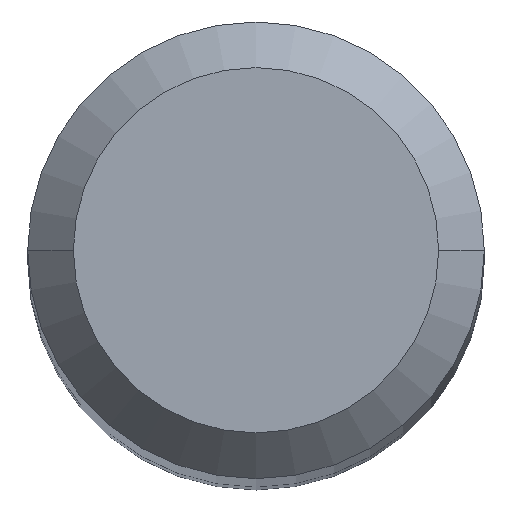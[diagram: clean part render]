
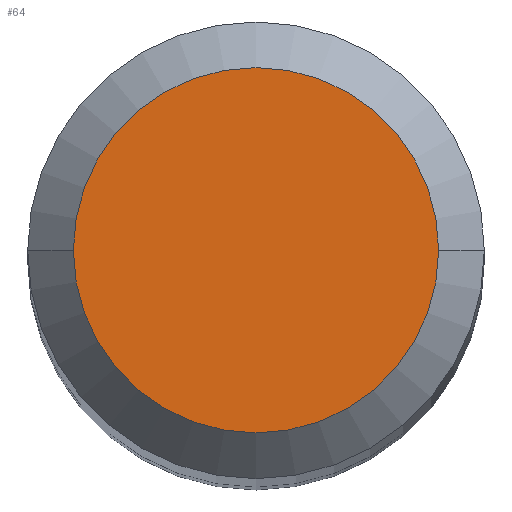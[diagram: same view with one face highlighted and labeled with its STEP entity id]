
A CAD part, top view. The second image highlights one B-rep face of the part: STEP entity #64.
In plain terms, the highlighted planar face has unit normal (0, 0, 1).
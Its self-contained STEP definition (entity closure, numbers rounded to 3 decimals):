
#13 = CIRCLE ( 'NONE', #275, 1.44 ) ;
#47 = CARTESIAN_POINT ( 'NONE',  ( 0., 0., 0. ) ) ;
#50 = AXIS2_PLACEMENT_3D ( 'NONE', #76, #196, #51 ) ;
#51 = DIRECTION ( 'NONE',  ( 1., 0., 0. ) ) ;
#64 = ADVANCED_FACE ( 'NONE', ( #104 ), #78, .T. ) ;
#76 = CARTESIAN_POINT ( 'NONE',  ( 0., 1.44, 0. ) ) ;
#78 = PLANE ( 'NONE',  #50 ) ;
#80 = CARTESIAN_POINT ( 'NONE',  ( 0., 0., 0. ) ) ;
#95 = EDGE_CURVE ( 'NONE', #283, #373, #226, .T. ) ;
#103 = EDGE_LOOP ( 'NONE', ( #287, #341 ) ) ;
#104 = FACE_OUTER_BOUND ( 'NONE', #103, .T. ) ;
#110 = DIRECTION ( 'NONE',  ( -1., 0., 0. ) ) ;
#113 = AXIS2_PLACEMENT_3D ( 'NONE', #47, #166, #110 ) ;
#114 = DIRECTION ( 'NONE',  ( -1., 0., 0. ) ) ;
#166 = DIRECTION ( 'NONE',  ( 0., 0., -1. ) ) ;
#196 = DIRECTION ( 'NONE',  ( 0., 0., 1. ) ) ;
#226 = CIRCLE ( 'NONE', #113, 1.44 ) ;
#275 = AXIS2_PLACEMENT_3D ( 'NONE', #80, #327, #114 ) ;
#283 = VERTEX_POINT ( 'NONE', #299 ) ;
#287 = ORIENTED_EDGE ( 'NONE', *, *, #311, .F. ) ;
#299 = CARTESIAN_POINT ( 'NONE',  ( 1.44, 0., 0. ) ) ;
#311 = EDGE_CURVE ( 'NONE', #373, #283, #13, .T. ) ;
#327 = DIRECTION ( 'NONE',  ( 0., 0., -1. ) ) ;
#341 = ORIENTED_EDGE ( 'NONE', *, *, #95, .F. ) ;
#373 = VERTEX_POINT ( 'NONE', #395 ) ;
#395 = CARTESIAN_POINT ( 'NONE',  ( -1.44, 0., 0. ) ) ;
